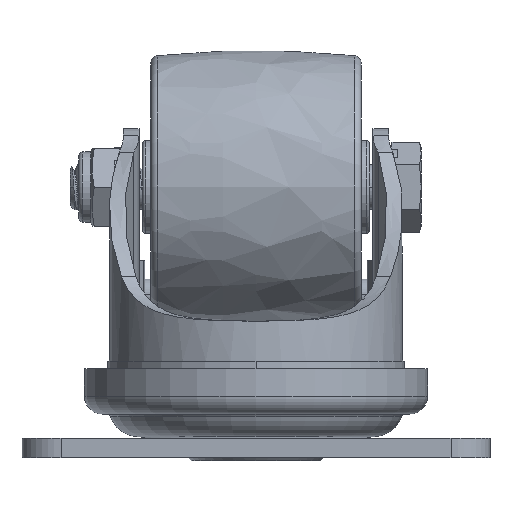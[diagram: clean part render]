
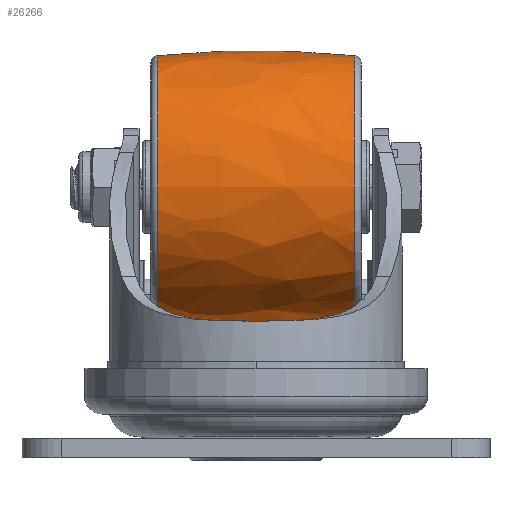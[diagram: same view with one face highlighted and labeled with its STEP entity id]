
A CAD part, front view. The second image highlights one B-rep face of the part: STEP entity #26266.
In plain terms, the highlighted free-form (B-spline) face has degree [3, 3] with [7, 4] control points.
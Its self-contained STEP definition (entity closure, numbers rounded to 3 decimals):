
#25916=CARTESIAN_POINT('',(0.,15.,125.575));
#25917=DIRECTION('',(0.,1.,0.));
#25918=DIRECTION('',(0.103,0.,-0.995));
#25919=AXIS2_PLACEMENT_3D('',#25916,#25917,#25918);
#25921=CARTESIAN_POINT('',(0.,15.,-83.175));
#25922=DIRECTION('',(0.,-1.,0.));
#25923=DIRECTION('',(0.103,0.,0.995));
#25924=AXIS2_PLACEMENT_3D('',#25921,#25922,#25923);
#25926=CARTESIAN_POINT('',(12.603,15.,21.2));
#25927=DIRECTION('',(-1.,0.,0.));
#25928=DIRECTION('',(0.,0.,-1.));
#25929=AXIS2_PLACEMENT_3D('',#25926,#25927,#25928);
#25951=CARTESIAN_POINT('',(-12.603,15.,21.2));
#25952=DIRECTION('',(-1.,0.,0.));
#25953=DIRECTION('',(0.,0.,-1.));
#25954=AXIS2_PLACEMENT_3D('',#25951,#25952,#25953);
#26099=CARTESIAN_POINT('',(12.603,15.,4.353));
#26101=VERTEX_POINT('',#26099);
#26102=CARTESIAN_POINT('',(-12.603,15.,4.353));
#26103=VERTEX_POINT('',#26102);
#26127=CARTESIAN_POINT('',(12.603,15.,38.047));
#26129=VERTEX_POINT('',#26127);
#26130=CARTESIAN_POINT('',(-12.603,15.,38.047));
#26131=VERTEX_POINT('',#26130);
#26228=CARTESIAN_POINT('',(-13.106,16.054,
37.96));
#26229=CARTESIAN_POINT('',(-4.385,16.114,
38.901));
#26230=CARTESIAN_POINT('',(4.385,16.114,38.901));
#26231=CARTESIAN_POINT('',(13.106,16.054,37.96));
#26232=CARTESIAN_POINT('',(-13.106,5.74,
38.609));
#26233=CARTESIAN_POINT('',(-4.385,5.22,
39.587));
#26234=CARTESIAN_POINT('',(4.385,5.22,39.587));
#26235=CARTESIAN_POINT('',(13.106,5.74,38.609));
#26236=CARTESIAN_POINT('',(-13.106,-1.793,
31.535));
#26237=CARTESIAN_POINT('',(-4.385,-2.736,
32.115));
#26238=CARTESIAN_POINT('',(4.385,-2.736,
32.115));
#26239=CARTESIAN_POINT('',(13.106,-1.793,
31.535));
#26240=CARTESIAN_POINT('',(-13.106,-1.793,21.2));
#26241=CARTESIAN_POINT('',(-4.385,-2.736,21.2));
#26242=CARTESIAN_POINT('',(4.385,-2.736,21.2));
#26243=CARTESIAN_POINT('',(13.106,-1.793,21.2));
#26244=CARTESIAN_POINT('',(-13.106,-1.793,
10.865));
#26245=CARTESIAN_POINT('',(-4.385,-2.736,
10.285));
#26246=CARTESIAN_POINT('',(4.385,-2.736,
10.285));
#26247=CARTESIAN_POINT('',(13.106,-1.793,
10.865));
#26248=CARTESIAN_POINT('',(-13.106,5.74,
3.791));
#26249=CARTESIAN_POINT('',(-4.385,5.22,
2.813));
#26250=CARTESIAN_POINT('',(4.385,5.22,2.813));
#26251=CARTESIAN_POINT('',(13.106,5.74,3.791));
#26252=CARTESIAN_POINT('',(-13.106,16.054,
4.44));
#26253=CARTESIAN_POINT('',(-4.385,16.114,
3.499));
#26254=CARTESIAN_POINT('',(4.385,16.114,3.499));
#26255=CARTESIAN_POINT('',(13.106,16.054,4.44));
#26256=(BOUNDED_SURFACE()B_SPLINE_SURFACE(3,3,((#26228,#26229,#26230,#26231),(
#26232,#26233,#26234,#26235),(#26236,#26237,#26238,#26239),(#26240,#26241,
#26242,#26243),(#26244,#26245,#26246,#26247),(#26248,#26249,#26250,#26251),(
#26252,#26253,#26254,#26255)),.UNSPECIFIED.,.F.,.F.,.F.)B_SPLINE_SURFACE_WITH_KNOTS((4,3,4),(4,4),(0.,1.,2.),(0.,1.),.UNSPECIFIED.)GEOMETRIC_REPRESENTATION_ITEM()RATIONAL_B_SPLINE_SURFACE(((1.191,1.186,
1.186,1.191),(0.94,0.937,
0.937,0.94),(0.94,0.937,
0.937,0.94),(1.191,1.186,
1.186,1.191),(0.94,0.937,
0.937,0.94),(0.94,0.937,
0.937,0.94),(1.191,1.186,
1.186,1.191)))REPRESENTATION_ITEM('')SURFACE());
#26258=ORIENTED_EDGE('',*,*,#26257,.T.);
#26260=ORIENTED_EDGE('',*,*,#26259,.T.);
#26262=ORIENTED_EDGE('',*,*,#26261,.F.);
#26263=ORIENTED_EDGE('',*,*,#26221,.F.);
#26264=EDGE_LOOP('',(#26258,#26260,#26262,#26263));
#26265=FACE_OUTER_BOUND('',#26264,.F.);
#26266=ADVANCED_FACE('',(#26265),#26256,.T.);
#25920=CIRCLE('',#25919,121.875);
#25925=CIRCLE('',#25924,121.875);
#25930=CIRCLE('',#25929,16.847);
#25955=CIRCLE('',#25954,16.847);
#26221=EDGE_CURVE('',#26101,#26129,#25930,.T.);
#26257=EDGE_CURVE('',#26101,#26103,#25920,.T.);
#26259=EDGE_CURVE('',#26103,#26131,#25955,.T.);
#26261=EDGE_CURVE('',#26129,#26131,#25925,.T.);
